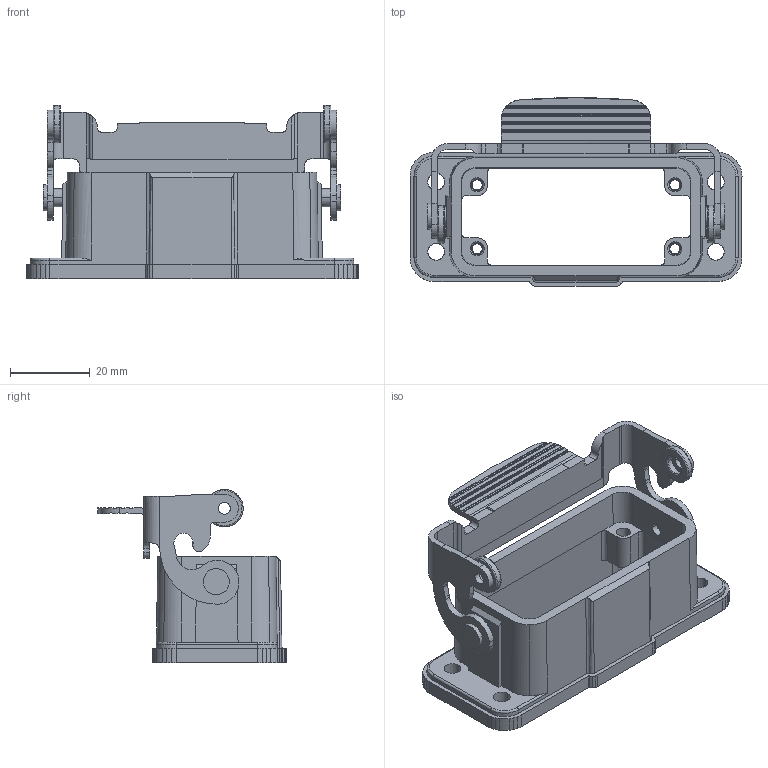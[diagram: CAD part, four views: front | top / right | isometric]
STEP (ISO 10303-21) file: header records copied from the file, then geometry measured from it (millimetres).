
FILE_DESCRIPTION((''),'2;1');
FILE_NAME('H10A-AG_ASM','2022-07-11T',('PC'),(''),'PRO/ENGINEER BY PARAMETRIC TECHNOLOGY CORPORATION, 2009220','PRO/ENGINEER BY PARAMETRIC TECHNOLOGY CORPORATION, 2009220','');
FILE_SCHEMA(('CONFIG_CONTROL_DESIGN'));
Length unit declared in the file: millimetre
Products named in the file (4): _X2_4F5379EF_X0__57; ____2; ASM0001_ASM; H10A-AG_ASM
Assembly tree (3 placements, depth 3):
  H10A-AG_ASM
    ASM0001_ASM
      _X2_4F5379EF_X0__57
      ____2
Bounding box: 83.12 x 47.15 x 43.35 mm (x, y, z)
Volume: 21603 mm3; surface area: 20558.2 mm2
Topology: 2 solids, 2 shells, 591 faces, 2102 edges, 1527 vertices
Faces by surface type: cylinder 348, plane 148, bspline 36, extrusion 27, cone 16, torus 16
Entity records: 25215 total; most frequent: CARTESIAN_POINT 7095, ORIENTED_EDGE 4204, DIRECTION 3476, EDGE_CURVE 2102, VERTEX_POINT 1527, AXIS2_PLACEMENT_3D 1348, CIRCLE 811, VECTOR 780
